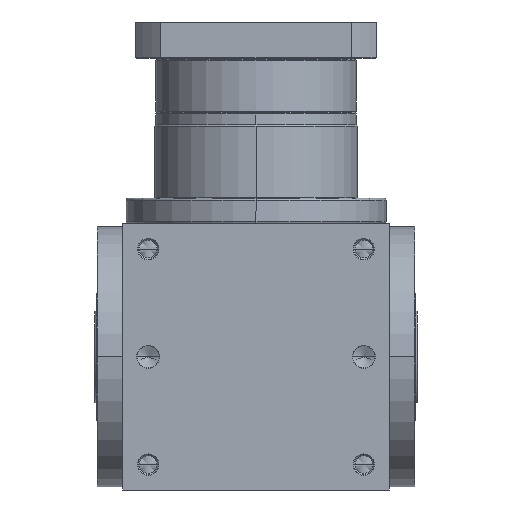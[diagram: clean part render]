
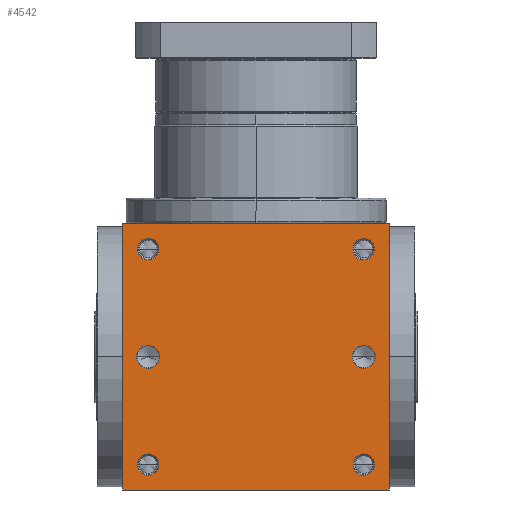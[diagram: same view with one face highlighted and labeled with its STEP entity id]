
A CAD part, front view. The second image highlights one B-rep face of the part: STEP entity #4542.
In plain terms, the highlighted planar face has unit normal (0, -1, 0).
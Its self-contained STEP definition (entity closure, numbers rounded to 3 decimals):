
#5=DIRECTION('',(1.,0.,0.));
#6=VECTOR('',#5,210.);
#7=CARTESIAN_POINT('',(-105.,-105.,-105.));
#8=LINE('',#7,#6);
#155=DIRECTION('',(0.,0.,1.));
#156=VECTOR('',#155,210.);
#157=CARTESIAN_POINT('',(105.,-105.,-105.));
#158=LINE('',#157,#156);
#209=DIRECTION('',(0.,0.,1.));
#210=VECTOR('',#209,210.);
#211=CARTESIAN_POINT('',(-105.,-105.,-105.));
#212=LINE('',#211,#210);
#213=CARTESIAN_POINT('',(85.,-105.,85.));
#214=DIRECTION('',(0.,1.,0.));
#215=DIRECTION('',(-1.,0.,0.));
#216=AXIS2_PLACEMENT_3D('',#213,#214,#215);
#218=CARTESIAN_POINT('',(85.,-105.,85.));
#219=DIRECTION('',(0.,1.,0.));
#220=DIRECTION('',(1.,0.,0.));
#221=AXIS2_PLACEMENT_3D('',#218,#219,#220);
#223=CARTESIAN_POINT('',(-85.,-105.,85.));
#224=DIRECTION('',(0.,1.,0.));
#225=DIRECTION('',(-1.,0.,0.));
#226=AXIS2_PLACEMENT_3D('',#223,#224,#225);
#228=CARTESIAN_POINT('',(-85.,-105.,85.));
#229=DIRECTION('',(0.,1.,0.));
#230=DIRECTION('',(1.,0.,0.));
#231=AXIS2_PLACEMENT_3D('',#228,#229,#230);
#233=CARTESIAN_POINT('',(85.,-105.,-85.));
#234=DIRECTION('',(0.,1.,0.));
#235=DIRECTION('',(-1.,0.,0.));
#236=AXIS2_PLACEMENT_3D('',#233,#234,#235);
#238=CARTESIAN_POINT('',(85.,-105.,-85.));
#239=DIRECTION('',(0.,1.,0.));
#240=DIRECTION('',(1.,0.,0.));
#241=AXIS2_PLACEMENT_3D('',#238,#239,#240);
#243=CARTESIAN_POINT('',(-85.,-105.,-85.));
#244=DIRECTION('',(0.,1.,0.));
#245=DIRECTION('',(-1.,0.,0.));
#246=AXIS2_PLACEMENT_3D('',#243,#244,#245);
#248=CARTESIAN_POINT('',(-85.,-105.,-85.));
#249=DIRECTION('',(0.,1.,0.));
#250=DIRECTION('',(1.,0.,0.));
#251=AXIS2_PLACEMENT_3D('',#248,#249,#250);
#253=CARTESIAN_POINT('',(-85.,-105.,0.));
#254=DIRECTION('',(0.,1.,0.));
#255=DIRECTION('',(1.,0.,0.));
#256=AXIS2_PLACEMENT_3D('',#253,#254,#255);
#258=CARTESIAN_POINT('',(-85.,-105.,0.));
#259=DIRECTION('',(0.,1.,0.));
#260=DIRECTION('',(-1.,0.,0.));
#261=AXIS2_PLACEMENT_3D('',#258,#259,#260);
#263=CARTESIAN_POINT('',(85.,-105.,0.));
#264=DIRECTION('',(0.,1.,0.));
#265=DIRECTION('',(1.,0.,0.));
#266=AXIS2_PLACEMENT_3D('',#263,#264,#265);
#268=CARTESIAN_POINT('',(85.,-105.,0.));
#269=DIRECTION('',(0.,1.,0.));
#270=DIRECTION('',(-1.,0.,0.));
#271=AXIS2_PLACEMENT_3D('',#268,#269,#270);
#285=DIRECTION('',(1.,0.,0.));
#286=VECTOR('',#285,210.);
#287=CARTESIAN_POINT('',(-105.,-105.,105.));
#288=LINE('',#287,#286);
#3660=CARTESIAN_POINT('',(-105.,-105.,-105.));
#3662=VERTEX_POINT('',#3660);
#3663=CARTESIAN_POINT('',(105.,-105.,-105.));
#3664=VERTEX_POINT('',#3663);
#3668=CARTESIAN_POINT('',(-105.,-105.,105.));
#3670=VERTEX_POINT('',#3668);
#3671=CARTESIAN_POINT('',(105.,-105.,105.));
#3672=VERTEX_POINT('',#3671);
#3827=CARTESIAN_POINT('',(76.6,-105.,85.));
#3828=CARTESIAN_POINT('',(93.4,-105.,85.));
#3829=VERTEX_POINT('',#3827);
#3830=VERTEX_POINT('',#3828);
#3835=CARTESIAN_POINT('',(-93.4,-105.,85.));
#3836=CARTESIAN_POINT('',(-76.6,-105.,85.));
#3837=VERTEX_POINT('',#3835);
#3838=VERTEX_POINT('',#3836);
#3843=CARTESIAN_POINT('',(76.6,-105.,-85.));
#3844=CARTESIAN_POINT('',(93.4,-105.,-85.));
#3845=VERTEX_POINT('',#3843);
#3846=VERTEX_POINT('',#3844);
#3851=CARTESIAN_POINT('',(-93.4,-105.,-85.));
#3852=CARTESIAN_POINT('',(-76.6,-105.,-85.));
#3853=VERTEX_POINT('',#3851);
#3854=VERTEX_POINT('',#3852);
#4175=CARTESIAN_POINT('',(-75.95,-105.,0.));
#4176=CARTESIAN_POINT('',(-94.05,-105.,
0.));
#4177=VERTEX_POINT('',#4175);
#4178=VERTEX_POINT('',#4176);
#4183=CARTESIAN_POINT('',(94.05,-105.,0.));
#4184=CARTESIAN_POINT('',(75.95,-105.,0.));
#4185=VERTEX_POINT('',#4183);
#4186=VERTEX_POINT('',#4184);
#4494=CARTESIAN_POINT('',(-105.,-105.,-105.));
#4495=DIRECTION('',(0.,-1.,0.));
#4496=DIRECTION('',(1.,0.,0.));
#4497=AXIS2_PLACEMENT_3D('',#4494,#4495,#4496);
#4498=PLANE('',#4497);
#4499=ORIENTED_EDGE('',*,*,#4334,.F.);
#4500=ORIENTED_EDGE('',*,*,#4377,.T.);
#4502=ORIENTED_EDGE('',*,*,#4501,.T.);
#4503=ORIENTED_EDGE('',*,*,#4456,.F.);
#4504=EDGE_LOOP('',(#4499,#4500,#4502,#4503));
#4505=FACE_OUTER_BOUND('',#4504,.F.);
#4507=ORIENTED_EDGE('',*,*,#4506,.F.);
#4509=ORIENTED_EDGE('',*,*,#4508,.F.);
#4510=EDGE_LOOP('',(#4507,#4509));
#4511=FACE_BOUND('',#4510,.F.);
#4513=ORIENTED_EDGE('',*,*,#4512,.F.);
#4515=ORIENTED_EDGE('',*,*,#4514,.F.);
#4516=EDGE_LOOP('',(#4513,#4515));
#4517=FACE_BOUND('',#4516,.F.);
#4519=ORIENTED_EDGE('',*,*,#4518,.F.);
#4521=ORIENTED_EDGE('',*,*,#4520,.F.);
#4522=EDGE_LOOP('',(#4519,#4521));
#4523=FACE_BOUND('',#4522,.F.);
#4525=ORIENTED_EDGE('',*,*,#4524,.F.);
#4527=ORIENTED_EDGE('',*,*,#4526,.F.);
#4528=EDGE_LOOP('',(#4525,#4527));
#4529=FACE_BOUND('',#4528,.F.);
#4531=ORIENTED_EDGE('',*,*,#4530,.F.);
#4533=ORIENTED_EDGE('',*,*,#4532,.F.);
#4534=EDGE_LOOP('',(#4531,#4533));
#4535=FACE_BOUND('',#4534,.F.);
#4537=ORIENTED_EDGE('',*,*,#4536,.F.);
#4539=ORIENTED_EDGE('',*,*,#4538,.F.);
#4540=EDGE_LOOP('',(#4537,#4539));
#4541=FACE_BOUND('',#4540,.F.);
#4542=ADVANCED_FACE('',(#4505,#4511,#4517,#4523,#4529,#4535,#4541),#4498,.T.);
#217=CIRCLE('',#216,8.4);
#222=CIRCLE('',#221,8.4);
#227=CIRCLE('',#226,8.4);
#232=CIRCLE('',#231,8.4);
#237=CIRCLE('',#236,8.4);
#242=CIRCLE('',#241,8.4);
#247=CIRCLE('',#246,8.4);
#252=CIRCLE('',#251,8.4);
#257=CIRCLE('',#256,9.05);
#262=CIRCLE('',#261,9.05);
#267=CIRCLE('',#266,9.05);
#272=CIRCLE('',#271,9.05);
#4334=EDGE_CURVE('',#3662,#3664,#8,.T.);
#4377=EDGE_CURVE('',#3662,#3670,#212,.T.);
#4456=EDGE_CURVE('',#3664,#3672,#158,.T.);
#4501=EDGE_CURVE('',#3670,#3672,#288,.T.);
#4506=EDGE_CURVE('',#3829,#3830,#217,.T.);
#4508=EDGE_CURVE('',#3830,#3829,#222,.T.);
#4512=EDGE_CURVE('',#3837,#3838,#227,.T.);
#4514=EDGE_CURVE('',#3838,#3837,#232,.T.);
#4518=EDGE_CURVE('',#3845,#3846,#237,.T.);
#4520=EDGE_CURVE('',#3846,#3845,#242,.T.);
#4524=EDGE_CURVE('',#3853,#3854,#247,.T.);
#4526=EDGE_CURVE('',#3854,#3853,#252,.T.);
#4530=EDGE_CURVE('',#4177,#4178,#257,.T.);
#4532=EDGE_CURVE('',#4178,#4177,#262,.T.);
#4536=EDGE_CURVE('',#4185,#4186,#267,.T.);
#4538=EDGE_CURVE('',#4186,#4185,#272,.T.);
